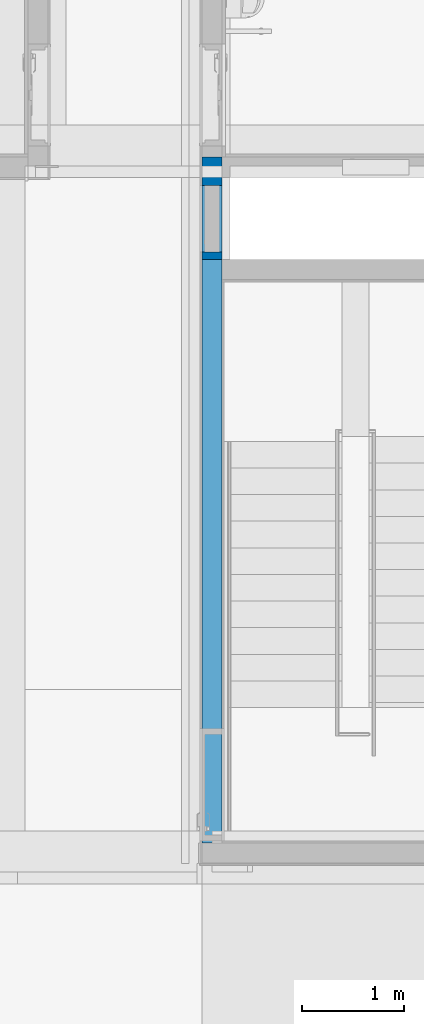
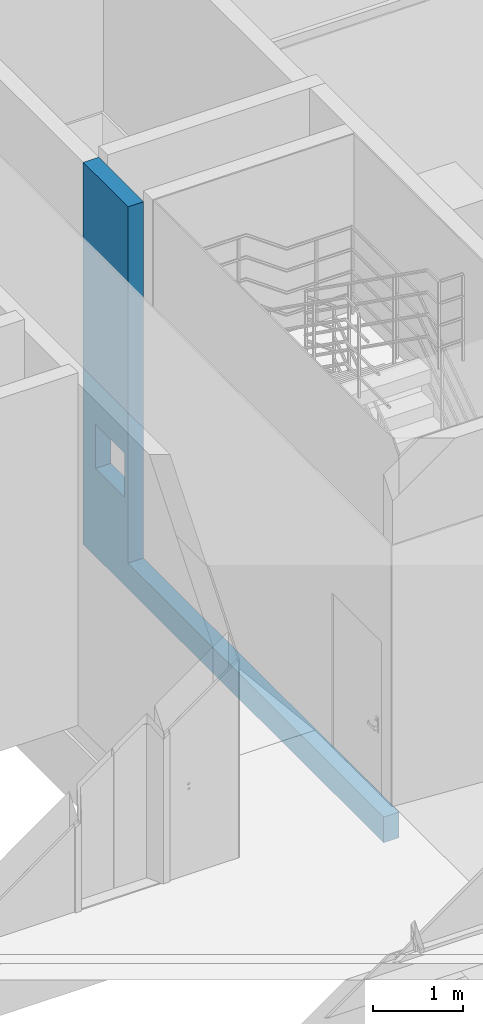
# One storey, part 43 of 100: 1 wall, 2 openings.
"""IFC2X3 building model written with IfcOpenShell, lengths in millimetres."""

from ifc_helpers import new_model, entity, si_unit, converted_unit, derived_unit, direction, frame, frame_2d, origin, place, context, subcontext, project, spatial, polyline, rectangle, extrude, clip, bounded_halfspace, material, layer, layer_set, layer_usage, type_object, element, save


model = new_model("IFC2X3")

# Units and contexts
model_context = context("Model", 3, precision=0.01, world=origin(), true_north=direction((6.123031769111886e-17, 1.0)))
body_context = subcontext(model_context, "Body", "Model", "MODEL_VIEW")
ifc_project = project(units=[si_unit("LENGTHUNIT", "METRE", prefix="MILLI"), si_unit("AREAUNIT", "SQUARE_METRE"), si_unit("VOLUMEUNIT", "CUBIC_METRE"), converted_unit("PLANEANGLEUNIT", "DEGREE", entity("IfcRatioMeasure", 0.017453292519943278), si_unit("PLANEANGLEUNIT", "RADIAN"), dimensions=[0, 0, 0, 0, 0, 0, 0]), si_unit("MASSUNIT", "GRAM", prefix="KILO"), derived_unit("MASSDENSITYUNIT", [(si_unit("MASSUNIT", "GRAM", prefix="KILO"), 1), (si_unit("LENGTHUNIT", "METRE"), -3)]), derived_unit("MOMENTOFINERTIAUNIT", [(si_unit("LENGTHUNIT", "METRE"), 4)]), si_unit("TIMEUNIT", "SECOND"), si_unit("FREQUENCYUNIT", "HERTZ"), si_unit("THERMODYNAMICTEMPERATUREUNIT", "DEGREE_CELSIUS"), derived_unit("THERMALTRANSMITTANCEUNIT", [(si_unit("MASSUNIT", "GRAM", prefix="KILO"), 1), (si_unit("THERMODYNAMICTEMPERATUREUNIT", "KELVIN"), -1), (si_unit("TIMEUNIT", "SECOND"), -3)]), derived_unit("VOLUMETRICFLOWRATEUNIT", [(si_unit("LENGTHUNIT", "METRE"), 3), (si_unit("TIMEUNIT", "SECOND"), -1)]), derived_unit("MASSFLOWRATEUNIT", [(si_unit("MASSUNIT", "GRAM", prefix="KILO"), 1), (si_unit("TIMEUNIT", "SECOND"), -1)]), derived_unit("ROTATIONALFREQUENCYUNIT", [(si_unit("TIMEUNIT", "SECOND"), -1)]), si_unit("ELECTRICCURRENTUNIT", "AMPERE"), si_unit("ELECTRICVOLTAGEUNIT", "VOLT"), si_unit("POWERUNIT", "WATT"), si_unit("FORCEUNIT", "NEWTON", prefix="KILO"), si_unit("ILLUMINANCEUNIT", "LUX"), si_unit("LUMINOUSFLUXUNIT", "LUMEN"), si_unit("LUMINOUSINTENSITYUNIT", "CANDELA"), derived_unit("USERDEFINED", [(si_unit("MASSUNIT", "GRAM", prefix="KILO"), -1), (si_unit("LENGTHUNIT", "METRE"), -2), (si_unit("TIMEUNIT", "SECOND"), 3), (si_unit("LUMINOUSFLUXUNIT", "LUMEN"), 1)]), derived_unit("SOUNDPOWERUNIT", [(si_unit("MASSUNIT", "GRAM", prefix="KILO"), 1), (si_unit("LENGTHUNIT", "METRE"), 2), (si_unit("TIMEUNIT", "SECOND"), -3)]), derived_unit("SOUNDPRESSUREUNIT", [(si_unit("MASSUNIT", "GRAM", prefix="KILO"), 1), (si_unit("LENGTHUNIT", "METRE"), -1), (si_unit("TIMEUNIT", "SECOND"), -2)]), derived_unit("LINEARVELOCITYUNIT", [(si_unit("LENGTHUNIT", "METRE"), 1), (si_unit("TIMEUNIT", "SECOND"), -1)]), si_unit("PRESSUREUNIT", "PASCAL"), derived_unit("USERDEFINED", [(si_unit("LENGTHUNIT", "METRE"), -2), (si_unit("MASSUNIT", "GRAM", prefix="KILO"), 1), (si_unit("TIMEUNIT", "SECOND"), -2)]), derived_unit("LINEARFORCEUNIT", [(si_unit("MASSUNIT", "GRAM", prefix="KILO"), 1), (si_unit("LENGTHUNIT", "METRE"), 1), (si_unit("TIMEUNIT", "SECOND"), -2), (si_unit("LENGTHUNIT", "METRE"), -1)]), derived_unit("PLANARFORCEUNIT", [(si_unit("MASSUNIT", "GRAM", prefix="KILO"), 1), (si_unit("LENGTHUNIT", "METRE"), 1), (si_unit("TIMEUNIT", "SECOND"), -2), (si_unit("LENGTHUNIT", "METRE"), -2)])], contexts=[model_context])

# Site, building, storey
site_placement = place(None, frame((-14167.972527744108, -657.2125860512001, 0.0)))
site = spatial("IfcSite", under=ifc_project, at=site_placement, Name="Default", CompositionType="ELEMENT")
building_placement = place(site_placement, origin())
building = spatial("IfcBuilding", under=site, at=building_placement, Name="Sample Building", CompositionType="ELEMENT")
storey_placement = place(building_placement, origin())
storey = spatial("IfcBuildingStorey", under=building, at=storey_placement, Name="지상 1층", CompositionType="ELEMENT", Elevation=0.0)

# Wall, openings
ifc_material = material(Name="KBIMS-콘크리트")
ifc_layer = layer(ifc_material, 200.0)
ifc_layer_set = layer_set([ifc_layer], Name="기본 벽:WA111-철근콘크리트구조 벽 200mm_CW1")
ifc_layer_usage = layer_usage(ifc_layer_set, "AXIS2", "NEGATIVE", 100.0)
wall_type = type_object("IfcWallType", Name="기본 벽:WA111-철근콘크리트구조 벽 200mm_CW1", PredefinedType="STANDARD", material=ifc_layer_set)
wall_placement = place(storey_placement, frame((38067.96379814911, 22457.212298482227, -550.0), z_axis=(0.0, 0.0, 1.0), x_axis=(0.0, -1.0, 0.0)))
wall = element("IfcWallStandardCase", 1, at=wall_placement, inside=storey, type_object=wall_type, material=ifc_layer_usage, Name="기본 벽:WA111-철근콘크리트구조 벽 200mm_CW1", ObjectType="기본 벽:WA111-철근콘크리트구조 벽 200mm_CW1", context=body_context, shape_type="Clipping", body=[
    clip(clip(extrude(rectangle(XDim=6700.000003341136, YDim=199.99999999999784, at=frame_2d((3350.000001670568, 0.0), x_axis=(-1.0, 0.0))), origin(), (0.0, 0.0, 1.0), 5200.000000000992), bounded_halfspace(frame((0.0, -100.0, 5200.0), z_axis=(0.0, 0.0, -1.0), x_axis=(0.0, 1.0, 0.0)), True, frame((0.0, -100.0, 5200.0), z_axis=(0.0, 0.0, -1.0), x_axis=(0.0, 1.0, 0.0)), polyline([(0.0, 0.0), (60960.0, 0.0), (60960.0, 2011680.0046911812), (60960.0, 2042160.0), (0.0, 2042160.0), (0.0, 60960.05639630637), (0.0, 0.0)]))), bounded_halfspace(frame((1000.0000066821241, -100.0, 350.0), z_axis=(-1.0, 0.0, 0.0), x_axis=(0.0, 0.0, 1.0)), True, frame((1000.0000066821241, -100.0, 350.0), z_axis=(-1.0, 0.0, 0.0), x_axis=(0.0, 0.0, 1.0)), polyline([(0.0, 0.0), (60960.0, 0.0), (60960.0, 60960.0), (0.0, 60960.0), (0.0, 0.0)]))),
])
opening_1_placement = place(wall_placement, frame((6682.052090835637, 100.0, 630.0)))
element("IfcOpeningElement", 2, at=opening_1_placement, cuts=wall, Name="DR111-외여닫이문(철재, 일반):DR111-외여닫이문(철재, 일반) 1100x2100mm 2:1", ObjectType="Opening", context=body_context, shape_type="SweptSolid", body=[
    extrude(rectangle(XDim=2099.999999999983, YDim=1100.0, at=frame_2d((1049.9999999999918, 550.0), x_axis=(1.0, 0.0))), frame((0.0, 0.0, 0.0), z_axis=(0.0, -1.0, 0.0), x_axis=(0.0, 0.0, 1.0)), (0.0, 0.0, 1.0), 200.0),
])
opening_2_placement = place(wall_placement, frame((925.0346247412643, 100.0, 1200.0)))
element("IfcOpeningElement", 3, at=opening_2_placement, cuts=wall, Name="DR872-샤프트 점검구(스테인리스 스틸):DR872-샤프트 점검구(스테인리스 스틸)_650x600:1", ObjectType="Opening", context=body_context, shape_type="SweptSolid", body=[
    extrude(rectangle(XDim=600.0, YDim=649.9999999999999, at=frame_2d((300.0, 324.99999999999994), x_axis=(1.0, 0.0))), frame((0.0, 0.0, 0.0), z_axis=(0.0, -1.0, 0.0), x_axis=(0.0, 0.0, 1.0)), (0.0, 0.0, 1.0), 200.0),
])

save(model, "model.ifc")
